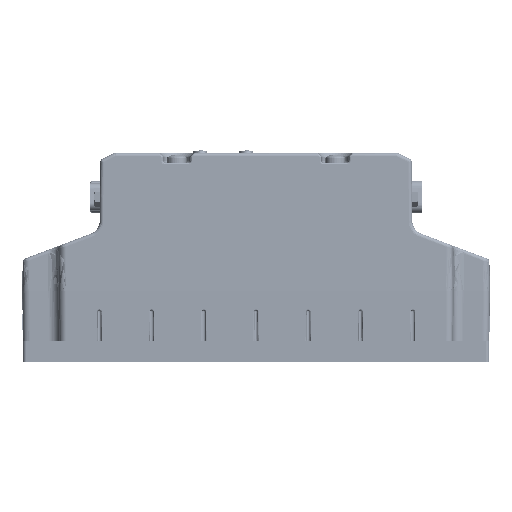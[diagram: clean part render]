
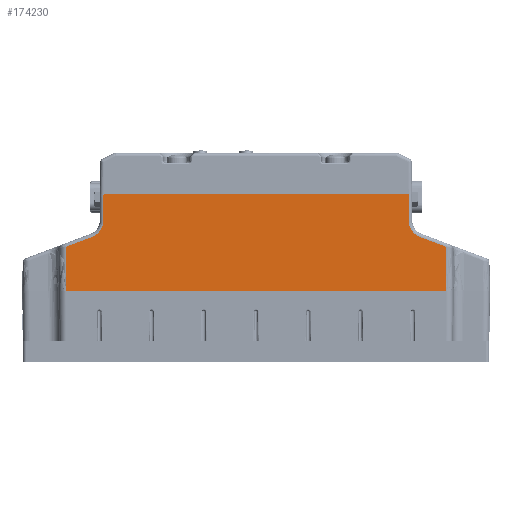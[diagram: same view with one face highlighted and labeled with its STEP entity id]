
A CAD part, left-side view. The second image highlights one B-rep face of the part: STEP entity #174230.
In plain terms, the highlighted planar face has unit normal (-1, 0, 0.009).
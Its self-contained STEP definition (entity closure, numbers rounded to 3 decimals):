
#186 = VERTEX_POINT ( 'NONE', #204586 ) ;
#1068 = DIRECTION ( 'NONE',  ( -0.009, 0., -1. ) ) ;
#1154 = ORIENTED_EDGE ( 'NONE', *, *, #12981, .F. ) ;
#6277 = VECTOR ( 'NONE', #140131, 1000. ) ;
#12981 = EDGE_CURVE ( 'NONE', #153120, #13329, #68515, .T. ) ;
#13329 = VERTEX_POINT ( 'NONE', #265280 ) ;
#16492 = CARTESIAN_POINT ( 'NONE',  ( -47.529, 58.802, 31.454 ) ) ;
#16881 = DIRECTION ( 'NONE',  ( 0.009, 0., 1. ) ) ;
#21496 = VERTEX_POINT ( 'NONE', #172669 ) ;
#26507 = ORIENTED_EDGE ( 'NONE', *, *, #97280, .T. ) ;
#28073 = VERTEX_POINT ( 'NONE', #150800 ) ;
#49750 = VECTOR ( 'NONE', #112726, 1000. ) ;
#53516 = DIRECTION ( 'NONE',  ( 0., -1., 0. ) ) ;
#54218 = ORIENTED_EDGE ( 'NONE', *, *, #126089, .T. ) ;
#55920 = ORIENTED_EDGE ( 'NONE', *, *, #253568, .F. ) ;
#61379 = CARTESIAN_POINT ( 'NONE',  ( -47.626, -54.626, 20.4 ) ) ;
#63535 = EDGE_CURVE ( 'NONE', #153120, #186, #166705, .T. ) ;
#66988 = ORIENTED_EDGE ( 'NONE', *, *, #119376, .T. ) ;
#68515 = LINE ( 'NONE', #61379, #228985 ) ;
#69280 = CARTESIAN_POINT ( 'NONE',  ( -47.384, 43.81, 48.1 ) ) ;
#72341 = VERTEX_POINT ( 'NONE', #126497 ) ;
#74599 = CARTESIAN_POINT ( 'NONE',  ( -47.626, 54.626, 20.4 ) ) ;
#76687 = EDGE_CURVE ( 'NONE', #28073, #13329, #211427, .T. ) ;
#82968 = CARTESIAN_POINT ( 'NONE',  ( -47.45, 43.876, 40.506 ) ) ;
#84120 = CARTESIAN_POINT ( 'NONE',  ( -47.491, -47.109, 35.872 ) ) ;
#87748 = DIRECTION ( 'NONE',  ( 0.009, 0.009, 1. ) ) ;
#87881 = VERTEX_POINT ( 'NONE', #113316 ) ;
#92821 = CARTESIAN_POINT ( 'NONE',  ( -47.491, 47.109, 35.872 ) ) ;
#97280 = EDGE_CURVE ( 'NONE', #72341, #235405, #137994, .T. ) ;
#103569 = DIRECTION ( 'NONE',  ( -0.009, 0., -1. ) ) ;
#106067 = CARTESIAN_POINT ( 'NONE',  ( -47.45, -43.876, 40.506 ) ) ;
#106170 = FACE_OUTER_BOUND ( 'NONE', #257097, .T. ) ;
#112106 = EDGE_CURVE ( 'NONE', #235405, #112369, #116529, .T. ) ;
#112369 = VERTEX_POINT ( 'NONE', #155152 ) ;
#112726 = DIRECTION ( 'NONE',  ( 0., -1., 0. ) ) ;
#113316 = CARTESIAN_POINT ( 'NONE',  ( -47.384, -43.81, 48.1 ) ) ;
#113743 = CARTESIAN_POINT ( 'NONE',  ( -47.626, 44.052, 20.308 ) ) ;
#116452 = CARTESIAN_POINT ( 'NONE',  ( -47.214, 36.804, 67.572 ) ) ;
#116529 = LINE ( 'NONE', #16492, #227827 ) ;
#119376 = EDGE_CURVE ( 'NONE', #21496, #87881, #208399, .T. ) ;
#125017 = CARTESIAN_POINT ( 'NONE',  ( -47.491, 47.109, 35.872 ) ) ;
#126089 = EDGE_CURVE ( 'NONE', #182599, #72341, #213742, .T. ) ;
#126459 = CARTESIAN_POINT ( 'NONE',  ( -47.626, 54.626, 20.4 ) ) ;
#126497 = CARTESIAN_POINT ( 'NONE',  ( -47.45, 43.876, 40.506 ) ) ;
#128314 = AXIS2_PLACEMENT_3D ( 'NONE', #204520, #142297, #16881 ) ;
#130251 = CARTESIAN_POINT ( 'NONE',  ( -47.515, -54.626, 33.032 ) ) ;
#134680 = DIRECTION ( 'NONE',  ( -0.009, 0.009, -1. ) ) ;
#137994 =( BOUNDED_CURVE ( )  B_SPLINE_CURVE ( 3, ( #82968, #270587, #250407, #125017 ),
 .UNSPECIFIED., .F., .F. ) 
 B_SPLINE_CURVE_WITH_KNOTS ( ( 4, 4 ),
 ( 4.721, 5.922 ),
 .UNSPECIFIED. ) 
 CURVE ( )  GEOMETRIC_REPRESENTATION_ITEM ( )  RATIONAL_B_SPLINE_CURVE ( ( 1., 0.883, 0.883, 1. ) ) 
 REPRESENTATION_ITEM ( '' )  );
#138143 = EDGE_CURVE ( 'NONE', #186, #21496, #196994, .T. ) ;
#140131 = DIRECTION ( 'NONE',  ( 0.003, 0.935, 0.353 ) ) ;
#142297 = DIRECTION ( 'NONE',  ( -1., 0., 0.009 ) ) ;
#150800 = CARTESIAN_POINT ( 'NONE',  ( -47.626, 54.626, 20.4 ) ) ;
#153120 = VERTEX_POINT ( 'NONE', #130251 ) ;
#155152 = CARTESIAN_POINT ( 'NONE',  ( -47.515, 54.626, 33.032 ) ) ;
#156071 = ORIENTED_EDGE ( 'NONE', *, *, #112106, .T. ) ;
#162934 = DIRECTION ( 'NONE',  ( -0.003, 0.935, -0.353 ) ) ;
#166705 = LINE ( 'NONE', #116452, #6277 ) ;
#172669 = CARTESIAN_POINT ( 'NONE',  ( -47.45, -43.876, 40.506 ) ) ;
#174230 = ADVANCED_FACE ( 'NONE', ( #106170 ), #225590, .T. ) ;
#182599 = VERTEX_POINT ( 'NONE', #69280 ) ;
#195860 = ORIENTED_EDGE ( 'NONE', *, *, #76687, .T. ) ;
#196994 =( BOUNDED_CURVE ( )  B_SPLINE_CURVE ( 3, ( #84120, #251541, #231394, #106067 ),
 .UNSPECIFIED., .F., .F. ) 
 B_SPLINE_CURVE_WITH_KNOTS ( ( 4, 4 ),
 ( 0.361, 1.562 ),
 .UNSPECIFIED. ) 
 CURVE ( )  GEOMETRIC_REPRESENTATION_ITEM ( )  RATIONAL_B_SPLINE_CURVE ( ( 1., 0.883, 0.883, 1. ) ) 
 REPRESENTATION_ITEM ( '' )  );
#200558 = VECTOR ( 'NONE', #134680, 1000. ) ;
#204520 = CARTESIAN_POINT ( 'NONE',  ( -47.626, 54.626, 20.4 ) ) ;
#204586 = CARTESIAN_POINT ( 'NONE',  ( -47.491, -47.109, 35.872 ) ) ;
#206443 = EDGE_CURVE ( 'NONE', #112369, #28073, #259133, .T. ) ;
#208399 = LINE ( 'NONE', #212172, #257561 ) ;
#209828 = ORIENTED_EDGE ( 'NONE', *, *, #206443, .T. ) ;
#210213 = LINE ( 'NONE', #238052, #49750 ) ;
#211427 = LINE ( 'NONE', #74599, #260576 ) ;
#212172 = CARTESIAN_POINT ( 'NONE',  ( -47.618, -44.044, 21.261 ) ) ;
#213742 = LINE ( 'NONE', #113743, #200558 ) ;
#220563 = ORIENTED_EDGE ( 'NONE', *, *, #138143, .T. ) ;
#225590 = PLANE ( 'NONE',  #128314 ) ;
#227827 = VECTOR ( 'NONE', #162934, 1000. ) ;
#228985 = VECTOR ( 'NONE', #103569, 1000. ) ;
#231394 = CARTESIAN_POINT ( 'NONE',  ( -47.469, -43.895, 38.374 ) ) ;
#235405 = VERTEX_POINT ( 'NONE', #92821 ) ;
#238052 = CARTESIAN_POINT ( 'NONE',  ( -47.384, 44.867, 48.1 ) ) ;
#244707 = ORIENTED_EDGE ( 'NONE', *, *, #63535, .T. ) ;
#250407 = CARTESIAN_POINT ( 'NONE',  ( -47.484, 45.115, 36.625 ) ) ;
#251541 = CARTESIAN_POINT ( 'NONE',  ( -47.484, -45.115, 36.625 ) ) ;
#253568 = EDGE_CURVE ( 'NONE', #182599, #87881, #210213, .T. ) ;
#257097 = EDGE_LOOP ( 'NONE', ( #55920, #54218, #26507, #156071, #209828, #195860, #1154, #244707, #220563, #66988 ) ) ;
#257561 = VECTOR ( 'NONE', #87748, 1000. ) ;
#259133 = LINE ( 'NONE', #126459, #265692 ) ;
#260576 = VECTOR ( 'NONE', #53516, 1000. ) ;
#265280 = CARTESIAN_POINT ( 'NONE',  ( -47.626, -54.626, 20.4 ) ) ;
#265692 = VECTOR ( 'NONE', #1068, 1000. ) ;
#270587 = CARTESIAN_POINT ( 'NONE',  ( -47.469, 43.895, 38.374 ) ) ;
